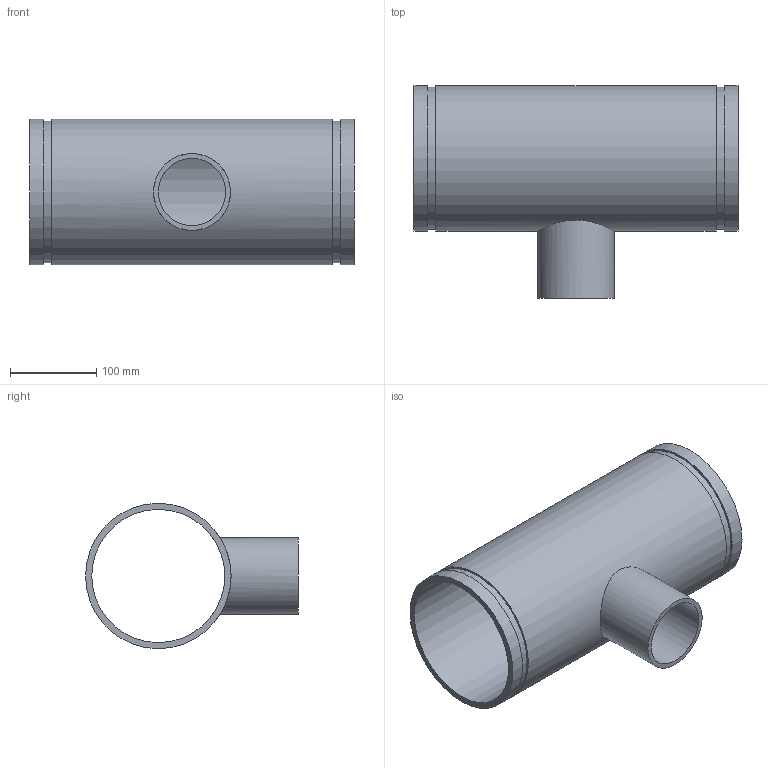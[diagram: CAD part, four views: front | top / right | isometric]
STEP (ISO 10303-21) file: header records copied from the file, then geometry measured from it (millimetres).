
FILE_DESCRIPTION(/* description */ ('VIC REDUCING TEE No 29T FFT (OGSxMPT)','CAx-IF Rec.Pracs.---Representation and Presentation of Product Manufacturing Information (PMI)---4.0---2014-10-13'),/* implementation_level */ '2;1');
FILE_NAME(/* name */ 'C:\Users\kkamble\AppData\Roaming\Autodesk\ApplicationPlugins\Back Up\Victaulic_IPS_Tee Reducing_No 29T FFT (OGSxMPT)\Victaulic_IPS_Tee Reducing_No 29T FFT (OGSxMPT)_06.0x03.0 (150x80).stp',/* time_stamp */ '2020-09-16T22:38:34+05:00',/* author */ ('CORINNE GRAY'),/* organization */ ('Victaulic'),/* preprocessor_version */ 'ST-DEVELOPER v17.2',/* originating_system */ 'Autodesk Inventor 2019',/* authorisation */ '');
FILE_SCHEMA (('AP242_MANAGED_MODEL_BASED_3D_ENGINEERING_MIM_LF { 1 0 10303 442 1 1 4 }'));
Length unit declared in the file: inch
Products named in the file (1): 29 FFT-06.0x03.0
Bounding box: 374.9 x 246.19 x 168.28 mm (x, y, z)
Volume: 1413393.6 mm3; surface area: 426718.4 mm2
Topology: 1 solids, 1 shells, 15 faces, 32 edges, 24 vertices
Faces by surface type: cylinder 8, plane 7
Full cylindrical faces by diameter (mm): 77.927 x1, 88.9 x1, 154.051 x1, 163.957 x2, 168.275 x3
Entity records: 709 total; most frequent: CARTESIAN_POINT 221, DIRECTION 106, ORIENTED_EDGE 64, AXIS2_PLACEMENT_3D 49, EDGE_CURVE 32, EDGE_LOOP 24, VERTEX_POINT 24, CIRCLE 20
